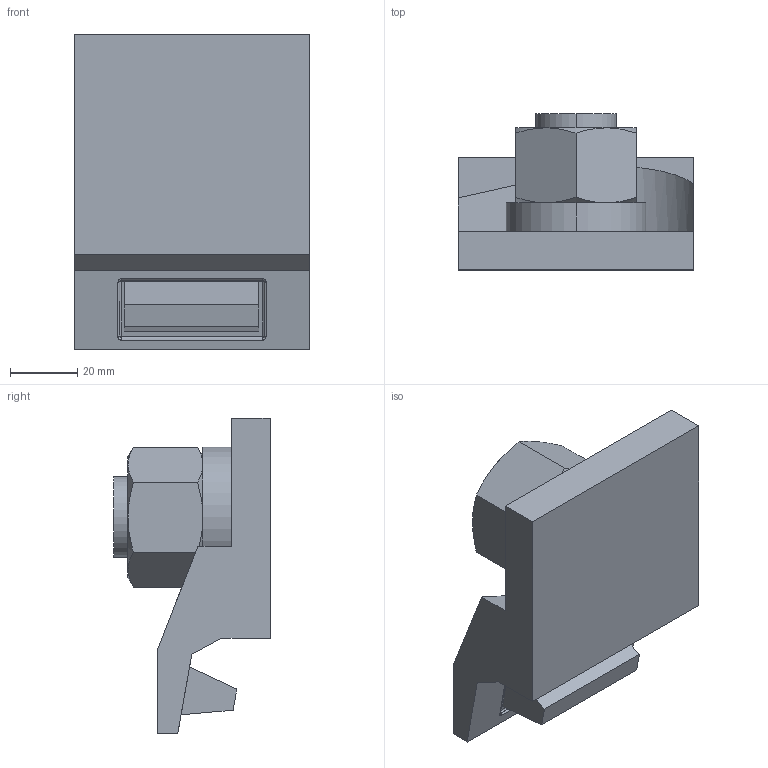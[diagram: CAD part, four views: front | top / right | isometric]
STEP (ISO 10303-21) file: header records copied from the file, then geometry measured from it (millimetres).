
FILE_DESCRIPTION (( 'STEP AP214' ), '1' );
FILE_NAME ('4124-15-33.STEP', '2020-10-14T09:54:06', ( '' ), ( '' ), 'SwSTEP 2.0', 'SolidWorks 2020', '' );
FILE_SCHEMA (( 'AUTOMOTIVE_DESIGN' ));
Length unit declared in the file: millimetre
Products named in the file (5): hex nut gradec_bsi_BS EN 24034 - M24 - N; 4124-15-33; Washer m24; 40mm Nose
Assembly tree (4 placements, depth 2):
  4124-15-33
    4124-15-33
    Washer m24
    hex nut gradec_bsi_BS EN 24034 - M24 - N
    40mm Nose
Bounding box: 70 x 46.5 x 94 mm (x, y, z)
Volume: 130898.3 mm3; surface area: 34567.2 mm2
Topology: 4 solids, 4 shells, 319 faces, 813 edges, 522 vertices
Faces by surface type: plane 188, bspline 70, cylinder 32, cone 16, sphere 9, torus 4
Entity records: 14790 total; most frequent: CARTESIAN_POINT 7571, ORIENTED_EDGE 1610, DIRECTION 1153, EDGE_CURVE 805, VERTEX_POINT 520, LINE 475, VECTOR 475, EDGE_LOOP 349
